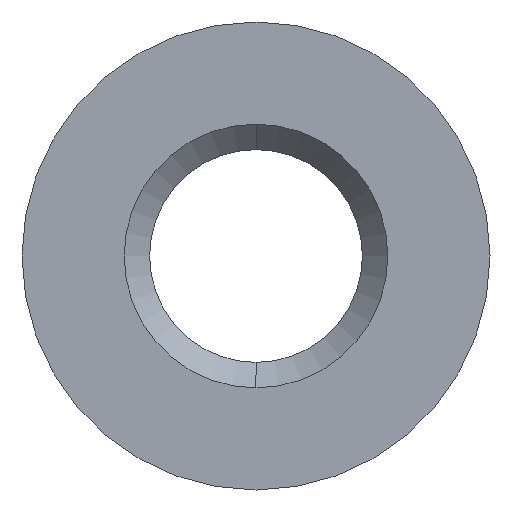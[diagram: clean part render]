
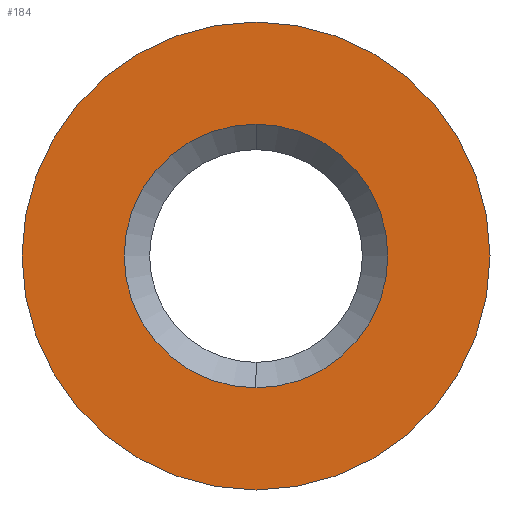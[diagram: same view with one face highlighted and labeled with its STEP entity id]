
A CAD part, left-side view. The second image highlights one B-rep face of the part: STEP entity #184.
In plain terms, the highlighted planar face has unit normal (-1, 0, 0).
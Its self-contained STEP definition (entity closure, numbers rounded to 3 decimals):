
#15 = EDGE_LOOP ( 'NONE', ( #582, #846 ) ) ;
#24 = AXIS2_PLACEMENT_3D ( 'NONE', #69, #198, #352 ) ;
#31 = PLANE ( 'NONE',  #109 ) ;
#56 = DIRECTION ( 'NONE',  ( 1., 0., 0. ) ) ;
#69 = CARTESIAN_POINT ( 'NONE',  ( -6.31, 0., 0. ) ) ;
#88 = EDGE_CURVE ( 'NONE', #440, #424, #514, .T. ) ;
#109 = AXIS2_PLACEMENT_3D ( 'NONE', #110, #518, #663 ) ;
#110 = CARTESIAN_POINT ( 'NONE',  ( -6.31, 2.75, 0. ) ) ;
#137 = ORIENTED_EDGE ( 'NONE', *, *, #571, .F. ) ;
#154 = CIRCLE ( 'NONE', #811, 2.75 ) ;
#184 = ADVANCED_FACE ( 'NONE', ( #866, #459 ), #31, .T. ) ;
#198 = DIRECTION ( 'NONE',  ( 1., 0., 0. ) ) ;
#233 = DIRECTION ( 'NONE',  ( 0., 0., -1. ) ) ;
#234 = DIRECTION ( 'NONE',  ( 1., 0., 0. ) ) ;
#298 = CARTESIAN_POINT ( 'NONE',  ( -6.31, 0., -1.55 ) ) ;
#308 = ORIENTED_EDGE ( 'NONE', *, *, #889, .F. ) ;
#314 = EDGE_LOOP ( 'NONE', ( #308, #137 ) ) ;
#352 = DIRECTION ( 'NONE',  ( 0., 0., 1. ) ) ;
#362 = EDGE_CURVE ( 'NONE', #424, #440, #414, .T. ) ;
#388 = AXIS2_PLACEMENT_3D ( 'NONE', #861, #234, #737 ) ;
#411 = DIRECTION ( 'NONE',  ( 0., 0., -1. ) ) ;
#414 = CIRCLE ( 'NONE', #24, 1.55 ) ;
#424 = VERTEX_POINT ( 'NONE', #298 ) ;
#431 = CARTESIAN_POINT ( 'NONE',  ( -6.31, 0., 1.55 ) ) ;
#440 = VERTEX_POINT ( 'NONE', #431 ) ;
#459 = FACE_OUTER_BOUND ( 'NONE', #314, .T. ) ;
#467 = CARTESIAN_POINT ( 'NONE',  ( -6.31, 0., -2.75 ) ) ;
#494 = CARTESIAN_POINT ( 'NONE',  ( -6.31, 0., 0. ) ) ;
#511 = CARTESIAN_POINT ( 'NONE',  ( -6.31, 0., 2.75 ) ) ;
#514 = CIRCLE ( 'NONE', #388, 1.55 ) ;
#518 = DIRECTION ( 'NONE',  ( -1., 0., 0. ) ) ;
#571 = EDGE_CURVE ( 'NONE', #682, #841, #635, .T. ) ;
#579 = DIRECTION ( 'NONE',  ( 1., 0., 0. ) ) ;
#582 = ORIENTED_EDGE ( 'NONE', *, *, #88, .T. ) ;
#635 = CIRCLE ( 'NONE', #721, 2.75 ) ;
#663 = DIRECTION ( 'NONE',  ( 0., 0., 1. ) ) ;
#682 = VERTEX_POINT ( 'NONE', #511 ) ;
#712 = CARTESIAN_POINT ( 'NONE',  ( -6.31, 0., 0. ) ) ;
#721 = AXIS2_PLACEMENT_3D ( 'NONE', #712, #579, #233 ) ;
#737 = DIRECTION ( 'NONE',  ( 0., 0., 1. ) ) ;
#811 = AXIS2_PLACEMENT_3D ( 'NONE', #494, #56, #411 ) ;
#841 = VERTEX_POINT ( 'NONE', #467 ) ;
#846 = ORIENTED_EDGE ( 'NONE', *, *, #362, .T. ) ;
#861 = CARTESIAN_POINT ( 'NONE',  ( -6.31, 0., 0. ) ) ;
#866 = FACE_BOUND ( 'NONE', #15, .T. ) ;
#889 = EDGE_CURVE ( 'NONE', #841, #682, #154, .T. ) ;
